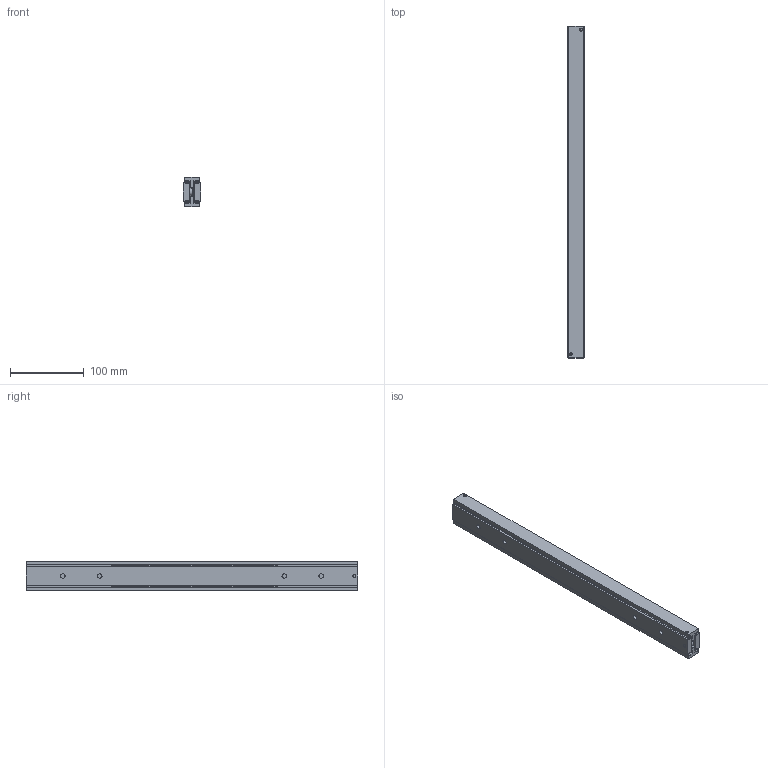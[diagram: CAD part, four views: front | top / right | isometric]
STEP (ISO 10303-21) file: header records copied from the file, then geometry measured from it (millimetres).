
FILE_DESCRIPTION(/* description */ (''),/* implementation_level */ '2;1');
FILE_NAME(/* name */ 'C:\Users\Miluxor\Desktop\Miluxor Schienen\Original Zeichnungen\Zeichnungen Schienen Komplett\MX-DTP40\MX-DTP40.045\MX-DTP40.045 eingefahren.stp',/* time_stamp */ '2019-01-26T12:00:14+01:00',/* author */ ('Miluxor'),/* organization */ (''),/* preprocessor_version */ 'ST-DEVELOPER v16.13',/* originating_system */ 'AutoCAD Mechanical',/* authorisation */ '');
FILE_SCHEMA (('AUTOMOTIVE_DESIGN { 1 0 10303 214 3 1 1 }'));
Products named in the file (1): Product
Bounding box: 24 x 450 x 40.5 mm (x, y, z)
Volume: 343159 mm3; surface area: 176748.5 mm2
Topology: 65 solids, 65 shells, 474 faces, 1208 edges, 800 vertices
Faces by surface type: plane 292, bspline 68, cylinder 64, sphere 36, cone 8, torus 6
Full cylindrical faces by diameter (mm): 4 x2, 6 x44, 10 x2
Entity records: 51075 total; most frequent: CARTESIAN_POINT 40377, ORIENTED_EDGE 2128, DIRECTION 1892, EDGE_CURVE 1064, VERTEX_POINT 790, LINE 690, VECTOR 690, EDGE_LOOP 632
